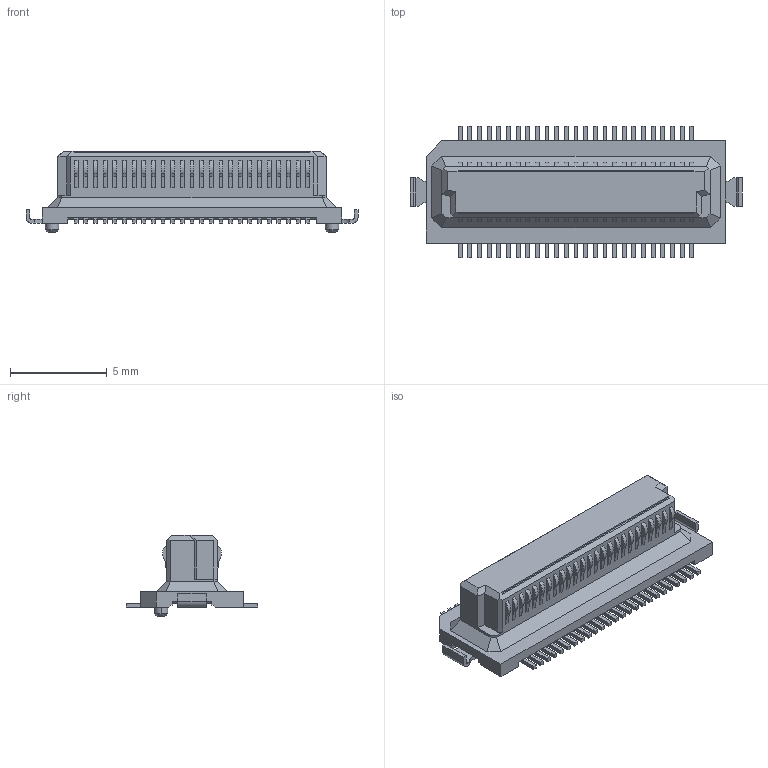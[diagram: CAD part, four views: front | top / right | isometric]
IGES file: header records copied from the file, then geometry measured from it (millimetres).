
Start section: Elysium IGES Interface
Global section: file name: 122HG:\その他\DY関連\CAD\依頼書（ウェブ）_HP用データ\60-36-0111_DY1X-S-1-H\P3E292_DY11-050SB-1-T-H\P3E292_DY11-050SB-1-T-H.igs; native system: Creo Elements/Direct Modeling 20.4A  18-Oct-2021; preprocessor: Creo Element/Direct IGES_3D V2.2; author: Unknown; organization: Unknown; date: 20220301.110450; units: millimetre
Bounding box: 17.2 x 6.8 x 4.23 mm (x, y, z)
Volume: 160.3 mm3; surface area: 362 mm2
Topology: 1 solids, 1 shells, 834 faces, 2151 edges, 1422 vertices
Faces by surface type: bspline 834
